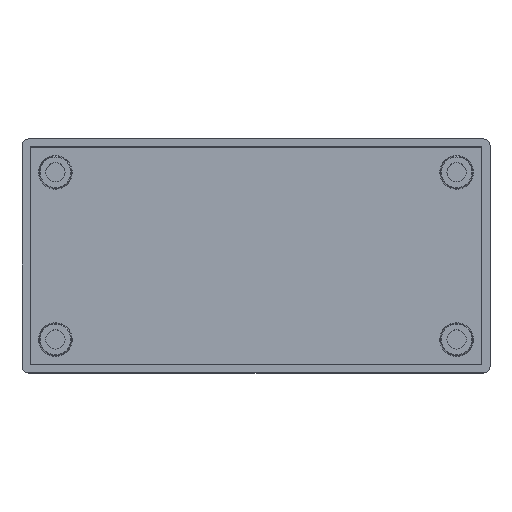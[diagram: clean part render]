
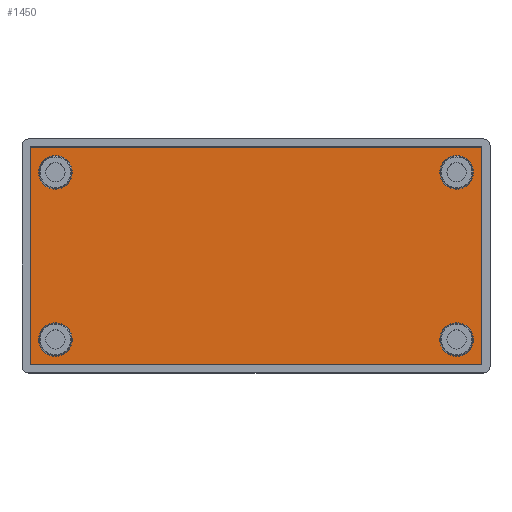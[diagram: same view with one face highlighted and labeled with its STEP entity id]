
A CAD part, top view. The second image highlights one B-rep face of the part: STEP entity #1450.
In plain terms, the highlighted planar face has unit normal (0, 0, 1).
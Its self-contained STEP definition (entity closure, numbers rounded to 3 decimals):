
#10 = ORIENTED_EDGE ( 'NONE', *, *, #1393, .F. ) ;
#16 = EDGE_CURVE ( 'NONE', #974, #1083, #1626, .T. ) ;
#25 = CIRCLE ( 'NONE', #985, 2.5 ) ;
#32 = DIRECTION ( 'NONE',  ( 0., 0., 1. ) ) ;
#36 = CARTESIAN_POINT ( 'NONE',  ( -33.8, -16.3, 2. ) ) ;
#42 = EDGE_CURVE ( 'NONE', #412, #293, #433, .T. ) ;
#56 = ORIENTED_EDGE ( 'NONE', *, *, #694, .T. ) ;
#64 = CARTESIAN_POINT ( 'NONE',  ( 27.5, -12.5, 2. ) ) ;
#80 = VERTEX_POINT ( 'NONE', #327 ) ;
#96 = DIRECTION ( 'NONE',  ( -1., 0., 0. ) ) ;
#114 = CIRCLE ( 'NONE', #926, 2.5 ) ;
#154 = CARTESIAN_POINT ( 'NONE',  ( -30., -12.5, 2. ) ) ;
#174 = AXIS2_PLACEMENT_3D ( 'NONE', #423, #1376, #420 ) ;
#210 = DIRECTION ( 'NONE',  ( 0., 1., 0. ) ) ;
#212 = DIRECTION ( 'NONE',  ( 0., 0., 1. ) ) ;
#221 = VERTEX_POINT ( 'NONE', #36 ) ;
#222 = VERTEX_POINT ( 'NONE', #841 ) ;
#224 = ORIENTED_EDGE ( 'NONE', *, *, #1073, .T. ) ;
#252 = ORIENTED_EDGE ( 'NONE', *, *, #16, .F. ) ;
#287 = VECTOR ( 'NONE', #1314, 1000. ) ;
#293 = VERTEX_POINT ( 'NONE', #875 ) ;
#308 = DIRECTION ( 'NONE',  ( -1., 0., 0. ) ) ;
#327 = CARTESIAN_POINT ( 'NONE',  ( -33.8, 16.3, 2. ) ) ;
#355 = AXIS2_PLACEMENT_3D ( 'NONE', #1316, #1712, #782 ) ;
#378 = DIRECTION ( 'NONE',  ( 0., 0., 1. ) ) ;
#412 = VERTEX_POINT ( 'NONE', #1151 ) ;
#420 = DIRECTION ( 'NONE',  ( -1., 0., 0. ) ) ;
#423 = CARTESIAN_POINT ( 'NONE',  ( 0., 0., 2. ) ) ;
#431 = PLANE ( 'NONE',  #174 ) ;
#432 = CIRCLE ( 'NONE', #355, 2.5 ) ;
#433 = CIRCLE ( 'NONE', #648, 2.5 ) ;
#444 = CARTESIAN_POINT ( 'NONE',  ( -32.5, -12.5, 2. ) ) ;
#469 = CIRCLE ( 'NONE', #1727, 2.5 ) ;
#471 = CARTESIAN_POINT ( 'NONE',  ( -33.8, 16.3, 2. ) ) ;
#489 = AXIS2_PLACEMENT_3D ( 'NONE', #1362, #698, #1634 ) ;
#500 = FACE_BOUND ( 'NONE', #1577, .T. ) ;
#554 = DIRECTION ( 'NONE',  ( -1., 0., 0. ) ) ;
#559 = ORIENTED_EDGE ( 'NONE', *, *, #855, .F. ) ;
#564 = DIRECTION ( 'NONE',  ( -1., 0., 0. ) ) ;
#600 = AXIS2_PLACEMENT_3D ( 'NONE', #1647, #1100, #554 ) ;
#609 = DIRECTION ( 'NONE',  ( 0., 0., 1. ) ) ;
#620 = ORIENTED_EDGE ( 'NONE', *, *, #1339, .T. ) ;
#648 = AXIS2_PLACEMENT_3D ( 'NONE', #1521, #728, #1391 ) ;
#649 = CARTESIAN_POINT ( 'NONE',  ( 30., 12.5, 2. ) ) ;
#655 = VECTOR ( 'NONE', #1530, 1000. ) ;
#660 = AXIS2_PLACEMENT_3D ( 'NONE', #1210, #212, #747 ) ;
#688 = LINE ( 'NONE', #1003, #1078 ) ;
#689 = LINE ( 'NONE', #471, #655 ) ;
#690 = FACE_BOUND ( 'NONE', #845, .T. ) ;
#693 = FACE_BOUND ( 'NONE', #1038, .T. ) ;
#694 = EDGE_CURVE ( 'NONE', #80, #221, #688, .T. ) ;
#698 = DIRECTION ( 'NONE',  ( 0., 0., 1. ) ) ;
#699 = ORIENTED_EDGE ( 'NONE', *, *, #1024, .T. ) ;
#708 = CARTESIAN_POINT ( 'NONE',  ( 33.8, 16.3, 2. ) ) ;
#710 = FACE_OUTER_BOUND ( 'NONE', #1282, .T. ) ;
#713 = CIRCLE ( 'NONE', #600, 2.5 ) ;
#727 = CARTESIAN_POINT ( 'NONE',  ( 33.8, -16.3, 2. ) ) ;
#728 = DIRECTION ( 'NONE',  ( 0., 0., 1. ) ) ;
#732 = FACE_BOUND ( 'NONE', #1013, .T. ) ;
#744 = VERTEX_POINT ( 'NONE', #1729 ) ;
#747 = DIRECTION ( 'NONE',  ( -1., 0., 0. ) ) ;
#782 = DIRECTION ( 'NONE',  ( -1., 0., 0. ) ) ;
#837 = CARTESIAN_POINT ( 'NONE',  ( 27.5, 12.5, 2. ) ) ;
#841 = CARTESIAN_POINT ( 'NONE',  ( 32.5, 12.5, 2. ) ) ;
#845 = EDGE_LOOP ( 'NONE', ( #1288, #559 ) ) ;
#855 = EDGE_CURVE ( 'NONE', #222, #1059, #469, .T. ) ;
#871 = ORIENTED_EDGE ( 'NONE', *, *, #42, .F. ) ;
#875 = CARTESIAN_POINT ( 'NONE',  ( -32.5, 12.5, 2. ) ) ;
#926 = AXIS2_PLACEMENT_3D ( 'NONE', #1692, #378, #96 ) ;
#974 = VERTEX_POINT ( 'NONE', #1186 ) ;
#985 = AXIS2_PLACEMENT_3D ( 'NONE', #154, #32, #308 ) ;
#1003 = CARTESIAN_POINT ( 'NONE',  ( -33.8, -16.3, 2. ) ) ;
#1013 = EDGE_LOOP ( 'NONE', ( #1498, #252 ) ) ;
#1017 = ORIENTED_EDGE ( 'NONE', *, *, #1185, .F. ) ;
#1018 = VERTEX_POINT ( 'NONE', #444 ) ;
#1024 = EDGE_CURVE ( 'NONE', #1429, #80, #689, .T. ) ;
#1038 = EDGE_LOOP ( 'NONE', ( #1206, #871 ) ) ;
#1059 = VERTEX_POINT ( 'NONE', #837 ) ;
#1073 = EDGE_CURVE ( 'NONE', #1599, #1429, #1112, .T. ) ;
#1078 = VECTOR ( 'NONE', #1167, 1000. ) ;
#1083 = VERTEX_POINT ( 'NONE', #64 ) ;
#1100 = DIRECTION ( 'NONE',  ( 0., 0., 1. ) ) ;
#1112 = LINE ( 'NONE', #727, #1451 ) ;
#1129 = LINE ( 'NONE', #1166, #287 ) ;
#1151 = CARTESIAN_POINT ( 'NONE',  ( -27.5, 12.5, 2. ) ) ;
#1166 = CARTESIAN_POINT ( 'NONE',  ( -33.8, -16.3, 2. ) ) ;
#1167 = DIRECTION ( 'NONE',  ( 0., -1., 0. ) ) ;
#1185 = EDGE_CURVE ( 'NONE', #744, #1018, #25, .T. ) ;
#1186 = CARTESIAN_POINT ( 'NONE',  ( 32.5, -12.5, 2. ) ) ;
#1198 = EDGE_CURVE ( 'NONE', #1059, #222, #114, .T. ) ;
#1206 = ORIENTED_EDGE ( 'NONE', *, *, #1336, .F. ) ;
#1210 = CARTESIAN_POINT ( 'NONE',  ( 30., -12.5, 2. ) ) ;
#1282 = EDGE_LOOP ( 'NONE', ( #224, #699, #56, #620 ) ) ;
#1288 = ORIENTED_EDGE ( 'NONE', *, *, #1198, .F. ) ;
#1314 = DIRECTION ( 'NONE',  ( 1., 0., 0. ) ) ;
#1316 = CARTESIAN_POINT ( 'NONE',  ( -30., -12.5, 2. ) ) ;
#1336 = EDGE_CURVE ( 'NONE', #293, #412, #1379, .T. ) ;
#1339 = EDGE_CURVE ( 'NONE', #221, #1599, #1129, .T. ) ;
#1362 = CARTESIAN_POINT ( 'NONE',  ( -30., 12.5, 2. ) ) ;
#1376 = DIRECTION ( 'NONE',  ( 0., 0., -1. ) ) ;
#1379 = CIRCLE ( 'NONE', #489, 2.5 ) ;
#1391 = DIRECTION ( 'NONE',  ( -1., 0., 0. ) ) ;
#1393 = EDGE_CURVE ( 'NONE', #1018, #744, #432, .T. ) ;
#1424 = EDGE_CURVE ( 'NONE', #1083, #974, #713, .T. ) ;
#1429 = VERTEX_POINT ( 'NONE', #708 ) ;
#1450 = ADVANCED_FACE ( 'NONE', ( #732, #690, #500, #693, #710 ), #431, .F. ) ;
#1451 = VECTOR ( 'NONE', #210, 1000. ) ;
#1498 = ORIENTED_EDGE ( 'NONE', *, *, #1424, .F. ) ;
#1521 = CARTESIAN_POINT ( 'NONE',  ( -30., 12.5, 2. ) ) ;
#1530 = DIRECTION ( 'NONE',  ( -1., 0., 0. ) ) ;
#1558 = CARTESIAN_POINT ( 'NONE',  ( 33.8, -16.3, 2. ) ) ;
#1577 = EDGE_LOOP ( 'NONE', ( #10, #1017 ) ) ;
#1599 = VERTEX_POINT ( 'NONE', #1558 ) ;
#1626 = CIRCLE ( 'NONE', #660, 2.5 ) ;
#1634 = DIRECTION ( 'NONE',  ( -1., 0., 0. ) ) ;
#1647 = CARTESIAN_POINT ( 'NONE',  ( 30., -12.5, 2. ) ) ;
#1692 = CARTESIAN_POINT ( 'NONE',  ( 30., 12.5, 2. ) ) ;
#1712 = DIRECTION ( 'NONE',  ( 0., 0., 1. ) ) ;
#1727 = AXIS2_PLACEMENT_3D ( 'NONE', #649, #609, #564 ) ;
#1729 = CARTESIAN_POINT ( 'NONE',  ( -27.5, -12.5, 2. ) ) ;
